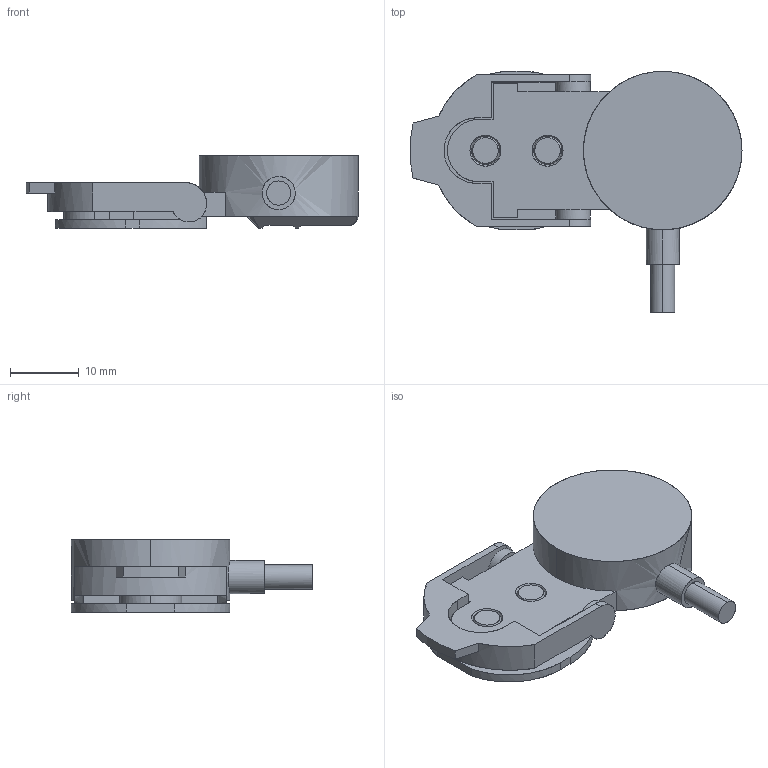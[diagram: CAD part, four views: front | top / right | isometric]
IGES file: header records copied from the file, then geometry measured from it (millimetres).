
Start section: Comment
Global section: file name: FODK 23P90Y0.igs; native system:  By Spatial Corp.; preprocessor: XPlus GENERIC/IGES 3.0; author: Author; organization: Title; date: 20060503.143639; units: millimetre
Bounding box: 48.14 x 35 x 10.5 mm (x, y, z)
Surface area: 3737.2 mm2 (no closed solid volume)
Topology: 0 solids, 0 shells, 92 faces, 506 edges, 506 vertices
Faces by surface type: bspline 92
